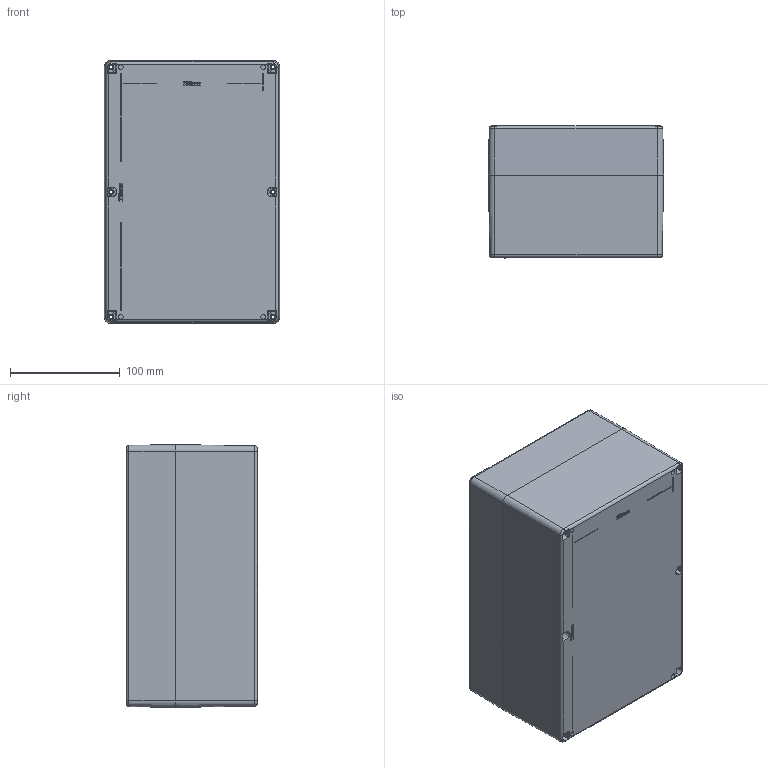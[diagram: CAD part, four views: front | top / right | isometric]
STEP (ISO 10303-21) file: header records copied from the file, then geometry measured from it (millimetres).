
FILE_DESCRIPTION (( 'STEP AP214' ), '1' );
FILE_NAME ('ZP 16 asm.STEP', '2014-10-27T11:40:51', ( '' ), ( '' ), 'SwSTEP 2.0', 'SolidWorks 2014', '' );
FILE_SCHEMA (( 'AUTOMOTIVE_DESIGN' ));
Length unit declared in the file: millimetre
Products named in the file (3): ZP 16 asm; ZP 16 Base; ZP 16 lid
Assembly tree (2 placements, depth 2):
  ZP 16 asm
    ZP 16 Base
    ZP 16 lid
Bounding box: 160 x 120.25 x 240 mm (x, y, z)
Volume: 531500.7 mm3; surface area: 380118.4 mm2
Topology: 2 solids, 2 shells, 1176 faces, 3136 edges, 2014 vertices
Faces by surface type: plane 679, cone 276, cylinder 119, bspline 88, torus 14
Entity records: 41498 total; most frequent: CARTESIAN_POINT 12469, ORIENTED_EDGE 6192, DIRECTION 5726, EDGE_CURVE 3096, VECTOR 2048, LINE 2048, VERTEX_POINT 2014, AXIS2_PLACEMENT_3D 1839
